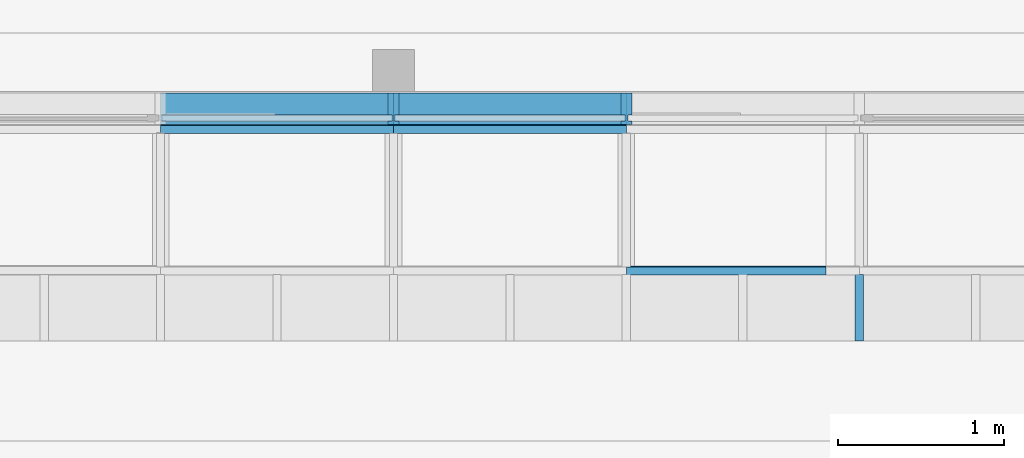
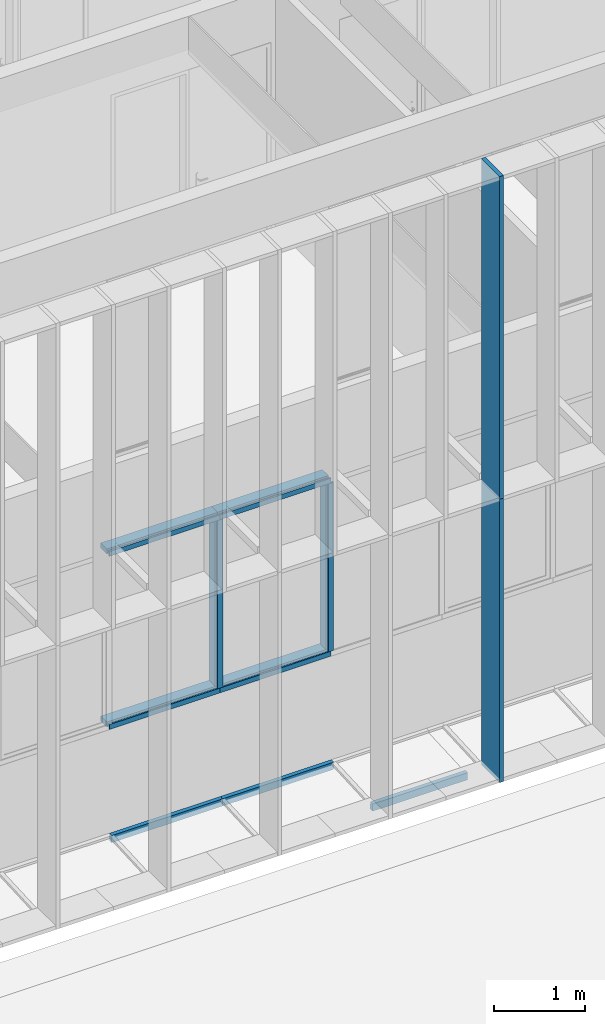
# One storey, part 6 of 106: 11 members, 3 elements without a shape of their own.
"""IFC2X3 building model written with IfcOpenShell, lengths in centimetres."""

from ifc_helpers import new_model, entity, si_unit, converted_unit, derived_unit, direction, frame, origin, origin_2d_with_axis, place, context, subcontext, project, spatial, polyline, rectangle, outline, extrude, source, transform, mapped, material, type_object, type_shapes, element, aggregate, save


model = new_model("IFC2X3")

# Units and contexts
model_context = context("Model", 3, precision=0.001, world=origin(), true_north=direction((6.12303176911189e-17, 1.0)))
body_context = subcontext(model_context, "Body", "Model", "MODEL_VIEW")
ifc_project = project(units=[si_unit("LENGTHUNIT", "METRE", prefix="CENTI"), si_unit("AREAUNIT", "SQUARE_METRE"), si_unit("VOLUMEUNIT", "CUBIC_METRE"), converted_unit("PLANEANGLEUNIT", "DEGREE", entity("IfcRatioMeasure", 0.0174532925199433), si_unit("PLANEANGLEUNIT", "RADIAN"), dimensions=[0, 0, 0, 0, 0, 0, 0]), si_unit("MASSUNIT", "GRAM", prefix="KILO"), derived_unit("MASSDENSITYUNIT", [(si_unit("MASSUNIT", "GRAM", prefix="KILO"), 1), (si_unit("LENGTHUNIT", "METRE"), -3)]), si_unit("TIMEUNIT", "SECOND"), si_unit("FREQUENCYUNIT", "HERTZ"), si_unit("THERMODYNAMICTEMPERATUREUNIT", "DEGREE_CELSIUS"), derived_unit("THERMALTRANSMITTANCEUNIT", [(si_unit("MASSUNIT", "GRAM", prefix="KILO"), 1), (si_unit("THERMODYNAMICTEMPERATUREUNIT", "KELVIN"), -1), (si_unit("TIMEUNIT", "SECOND"), -3)]), derived_unit("VOLUMETRICFLOWRATEUNIT", [(si_unit("LENGTHUNIT", "METRE"), 3), (si_unit("TIMEUNIT", "SECOND"), -1)]), si_unit("ELECTRICCURRENTUNIT", "AMPERE"), si_unit("ELECTRICVOLTAGEUNIT", "VOLT"), si_unit("POWERUNIT", "WATT"), si_unit("FORCEUNIT", "NEWTON", prefix="KILO"), si_unit("ILLUMINANCEUNIT", "LUX"), si_unit("LUMINOUSFLUXUNIT", "LUMEN"), si_unit("LUMINOUSINTENSITYUNIT", "CANDELA"), derived_unit("USERDEFINED", [(si_unit("MASSUNIT", "GRAM", prefix="KILO"), -1), (si_unit("LENGTHUNIT", "METRE"), -2), (si_unit("TIMEUNIT", "SECOND"), 3), (si_unit("LUMINOUSFLUXUNIT", "LUMEN"), 1)]), derived_unit("LINEARVELOCITYUNIT", [(si_unit("LENGTHUNIT", "METRE"), 1), (si_unit("TIMEUNIT", "SECOND"), -1)]), si_unit("PRESSUREUNIT", "PASCAL"), derived_unit("USERDEFINED", [(si_unit("LENGTHUNIT", "METRE"), -2), (si_unit("MASSUNIT", "GRAM", prefix="KILO"), 1), (si_unit("TIMEUNIT", "SECOND"), -2)])], contexts=[model_context])

# Site, building, storey
site_placement = place(None, frame((-2781.94577612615, 7442.24238424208, 0.0)))
site = spatial("IfcSite", under=ifc_project, at=site_placement, Name="Default", CompositionType="ELEMENT")
building_placement = place(site_placement, origin())
building = spatial("IfcBuilding", under=site, at=building_placement, CompositionType="ELEMENT")
storey_placement = place(building_placement, frame((0.0, 0.0, 422.0)))
storey = spatial("IfcBuildingStorey", under=building, at=storey_placement, Name="Toiture - Cuisine", CompositionType="ELEMENT", Elevation=421.999999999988)

# Roof, members
curtain_wall_type_1 = type_object("IfcCurtainWallType", Name="Vitres inclinées:Toit en verre 1 m x 2 m", PredefinedType="NOTDEFINED")
roof_placement = place(building_placement, origin())
roof = element("IfcRoof", 1, at=roof_placement, inside=storey, type_object=curtain_wall_type_1, Name="Vitres inclinées:Toit en verre 1 m x 2 m", ObjectType="Vitres inclinées:Toit en verre 1 m x 2 m", ShapeType="NOTDEFINED")
ifc_material_1 = material(Name="Plastique, blanc opaque")
member_type_1 = type_object("IfcMemberType", Name="100 x 50mm", PredefinedType="MEMBER")
shared_shape_1 = source(origin(), body_context, "Body", "SweptSolid", [
    extrude(rectangle(XDim=10.0, YDim=5.0, at=origin_2d_with_axis()), frame((-2.5, 0.0, -140.0), z_axis=(0.0, 0.0, 1.0), x_axis=(0.0, -1.0, 0.0)), (0.0, 0.0, 1.0), 140.0),
])
type_shapes(member_type_1, [shared_shape_1])
member_1_placement = place(building_placement, frame((-6869.49987763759, -1950.34071342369, 362.709847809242), z_axis=(-1.0, 0.0, 0.0), x_axis=(0.0, 0.998629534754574, 0.0523359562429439)))
member_1 = element("IfcMember", 2, at=member_1_placement, type_object=member_type_1, material=ifc_material_1, Name="Meneau rectangulaire:100 x 50mm", ObjectType="Meneau rectangulaire:100 x 50mm", context=body_context, shape_type="MappedRepresentation", body=[
    mapped(shared_shape_1, transform((0.0, 0.0, 0.0), scale=1.0)),
])
member_2_placement = place(building_placement, frame((-7009.49987763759, -1950.34071342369, 362.709847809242), z_axis=(-1.0, 0.0, 0.0), x_axis=(0.0, 0.998629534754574, 0.0523359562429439)))
member_2 = element("IfcMember", 3, at=member_2_placement, type_object=member_type_1, material=ifc_material_1, Name="Meneau rectangulaire:100 x 50mm", ObjectType="Meneau rectangulaire:100 x 50mm", context=body_context, shape_type="MappedRepresentation", body=[
    mapped(shared_shape_1, transform((0.0, 0.0, 0.0), scale=1.0)),
])
member_type_2 = type_object("IfcMemberType", Name="100 x 50mm", PredefinedType="MEMBER")
shared_shape_2 = source(origin(), body_context, "Body", "SweptSolid", [
    extrude(rectangle(XDim=10.0, YDim=5.0, at=origin_2d_with_axis()), frame((-2.5, 0.0, -120.000164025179), z_axis=(0.0, 0.0, 1.0), x_axis=(0.0, -1.0, 0.0)), (0.0, 0.0, 1.0), 120.000164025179),
])
type_shapes(member_type_2, [shared_shape_2])
member_3_placement = place(building_placement, frame((-6609.49987763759, -2040.34071342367, 357.99314767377), z_axis=(1.0, 0.0, 0.0), x_axis=(0.0, -0.998629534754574, -0.0523359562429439)))
member_3 = element("IfcMember", 4, at=member_3_placement, type_object=member_type_2, material=ifc_material_1, Name="Meneau rectangulaire:100 x 50mm", ObjectType="Meneau rectangulaire:100 x 50mm", context=body_context, shape_type="MappedRepresentation", body=[
    mapped(shared_shape_2, transform((0.0, 0.0, 0.0), scale=1.0)),
])
aggregate(roof, [member_1, member_3, member_2])

# Curtain wall, members
curtain_wall_type_2 = type_object("IfcCurtainWallType", Name="Mur-rideau:07 - mur rideau trame 140 cm", PredefinedType="NOTDEFINED")
curtain_wall_1_placement = place(building_placement, origin())
curtain_wall_1 = element("IfcCurtainWall", 5, at=curtain_wall_1_placement, inside=storey, type_object=curtain_wall_type_2, Name="Mur-rideau:07 - mur rideau trame 140 cm", ObjectType="Mur-rideau:07 - mur rideau trame 140 cm")
ifc_material_2 = material(Name="Aluminium")
member_type_3 = type_object("IfcMemberType", Name="150 x 25mm Détails", PredefinedType="MEMBER")
shared_shape_3 = source(origin(), body_context, "Body", "SweptSolid", [
    extrude(outline(polyline([(-5.6666666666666, -3.24999999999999), (-3.66666666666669, -3.24999999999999), (-3.66666666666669, -0.868749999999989), (-0.166666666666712, -0.868749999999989), (-0.166666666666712, -3.25000000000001), (13.3333333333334, -3.25000000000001), (13.3333333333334, 3.24999999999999), (-0.16666666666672, 3.24999999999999), (-0.16666666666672, 0.868749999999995), (-3.66666666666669, 0.868749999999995), (-3.66666666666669, 3.25), (-5.6666666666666, 3.25), (-5.6666666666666, -3.24999999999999)])), frame((-3.24999999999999, -1.96666666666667, -140.0), z_axis=(0.0, 0.0, 1.0), x_axis=(0.0, -1.0, 0.0)), (0.0, 0.0, 1.0), 140.000000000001),
])
type_shapes(member_type_3, [shared_shape_3])
member_4_placement = place(building_placement, frame((-6869.49987763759, -1946.27903364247, 743.0), z_axis=(1.0, 0.0, 0.0), x_axis=(0.0, 0.0, 1.0)))
member_4 = element("IfcMember", 6, at=member_4_placement, type_object=member_type_3, material=ifc_material_2, Name="Meneau rectangulaire:150 x 25mm Détails", ObjectType="Meneau rectangulaire:150 x 25mm Détails", context=body_context, shape_type="MappedRepresentation", body=[
    mapped(shared_shape_3, transform((0.0, 0.0, 0.0), scale=1.0)),
])
member_5_placement = place(building_placement, frame((-6729.49987763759, -1946.27903364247, 743.0), z_axis=(1.0, 0.0, 0.0), x_axis=(0.0, 0.0, 1.0)))
member_5 = element("IfcMember", 7, at=member_5_placement, type_object=member_type_3, material=ifc_material_2, Name="Meneau rectangulaire:150 x 25mm Détails", ObjectType="Meneau rectangulaire:150 x 25mm Détails", context=body_context, shape_type="MappedRepresentation", body=[
    mapped(shared_shape_3, transform((0.0, 0.0, 0.0), scale=1.0)),
])
member_type_4 = type_object("IfcMemberType", Name="150 x 25mm Détails", PredefinedType="MEMBER")
shared_shape_4 = source(origin(), body_context, "Body", "SweptSolid", [
    extrude(outline(polyline([(-5.66666666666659, -3.25), (-3.66666666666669, -3.25), (-3.66666666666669, -0.868749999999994), (-0.166666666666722, -0.868749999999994), (-0.166666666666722, -3.25000000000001), (13.3333333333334, -3.24999999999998), (13.3333333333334, 3.25000000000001), (-0.166666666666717, 3.25000000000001), (-0.166666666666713, 0.868749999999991), (-3.66666666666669, 0.868749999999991), (-3.66666666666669, 3.24999999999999), (-5.66666666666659, 3.24999999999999), (-5.66666666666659, -3.25)])), frame((-3.24999999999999, -1.96666666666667, -140.0), z_axis=(0.0, 0.0, 1.0), x_axis=(0.0, -1.0, 0.0)), (0.0, 0.0, 1.0), 140.000000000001),
])
type_shapes(member_type_4, [shared_shape_4])
member_6_placement = place(building_placement, frame((-7009.49987763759, -1946.27903364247, 505.5), z_axis=(-1.0, 0.0, 0.0), x_axis=(0.0, 0.0, -1.0)))
member_6 = element("IfcMember", 8, at=member_6_placement, type_object=member_type_4, material=ifc_material_2, Name="Meneau rectangulaire:150 x 25mm Détails", ObjectType="Meneau rectangulaire:150 x 25mm Détails", context=body_context, shape_type="MappedRepresentation", body=[
    mapped(shared_shape_4, transform((0.0, 0.0, 0.0), scale=1.0)),
])
member_7_placement = place(building_placement, frame((-6869.49987763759, -1946.27903364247, 505.5), z_axis=(-1.0, 0.0, 0.0), x_axis=(0.0, 0.0, -1.0)))
member_7 = element("IfcMember", 9, at=member_7_placement, type_object=member_type_4, material=ifc_material_2, Name="Meneau rectangulaire:150 x 25mm Détails", ObjectType="Meneau rectangulaire:150 x 25mm Détails", context=body_context, shape_type="MappedRepresentation", body=[
    mapped(shared_shape_4, transform((0.0, 0.0, 0.0), scale=1.0)),
])
member_type_5 = type_object("IfcMemberType", Name="150 x 25mm Détails", PredefinedType="MEMBER")
shared_shape_5 = source(origin(), body_context, "Body", "SweptSolid", [
    extrude(outline(polyline([(-5.6666666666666, -3.24999999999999), (-3.66666666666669, -3.24999999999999), (-3.66666666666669, -0.86874999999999), (-0.166666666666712, -0.86874999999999), (-0.166666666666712, -3.25000000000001), (13.3333333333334, -3.25000000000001), (13.3333333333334, 3.24999999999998), (-0.16666666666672, 3.24999999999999), (-0.16666666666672, 0.868749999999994), (-3.66666666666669, 0.868749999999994), (-3.66666666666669, 3.25), (-5.6666666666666, 3.25), (-5.6666666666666, -3.24999999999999)])), frame((0.0, -1.96666666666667, -224.5), z_axis=(0.0, 0.0, 1.0), x_axis=(0.0, -1.0, 0.0)), (0.0, 0.0, 1.0), 224.5),
])
type_shapes(member_type_5, [shared_shape_5])
member_8_placement = place(building_placement, frame((-6869.49987763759, -1946.27903364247, 512.0), z_axis=(0.0, 0.0, -1.0), x_axis=(1.0, 0.0, 0.0)))
member_8 = element("IfcMember", 10, at=member_8_placement, type_object=member_type_5, material=ifc_material_2, Name="Meneau rectangulaire:150 x 25mm Détails", ObjectType="Meneau rectangulaire:150 x 25mm Détails", context=body_context, shape_type="MappedRepresentation", body=[
    mapped(shared_shape_5, transform((0.0, 0.0, 0.0), scale=1.0)),
])
member_9_placement = place(building_placement, frame((-6729.49987763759, -1946.27903364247, 512.0), z_axis=(0.0, 0.0, -1.0), x_axis=(1.0, 0.0, 0.0)))
member_9 = element("IfcMember", 11, at=member_9_placement, type_object=member_type_5, material=ifc_material_2, Name="Meneau rectangulaire:150 x 25mm Détails", ObjectType="Meneau rectangulaire:150 x 25mm Détails", context=body_context, shape_type="MappedRepresentation", body=[
    mapped(shared_shape_5, transform((0.0, 0.0, 0.0), scale=1.0)),
])
aggregate(curtain_wall_1, [member_4, member_5, member_6, member_7, member_8, member_9])

curtain_wall_type_3 = type_object("IfcCurtainWallType", Name="Mur-rideau:Epines - 400x30mm", PredefinedType="NOTDEFINED")
curtain_wall_2_placement = place(building_placement, origin())
curtain_wall_2 = element("IfcCurtainWall", 12, at=curtain_wall_2_placement, inside=storey, type_object=curtain_wall_type_3, Name="Mur-rideau:Epines - 400x30mm", ObjectType="Mur-rideau:Epines - 400x30mm")
member_type_6 = type_object("IfcMemberType", Name="Epine sud (400x50 mm)", PredefinedType="MEMBER")
shared_shape_6 = source(origin(), body_context, "Body", "SweptSolid", [
    extrude(rectangle(XDim=40.0, YDim=5.0, at=origin_2d_with_axis()), frame((0.0, 0.0, -377.950708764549), z_axis=(0.0, 0.0, 1.0), x_axis=(0.0, -1.0, 0.0)), (0.0, 0.0, 1.0), 377.950708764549),
])
type_shapes(member_type_6, [shared_shape_6])
member_10_placement = place(building_placement, frame((-6589.49987763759, -2060.07903364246, 367.449291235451), z_axis=(0.0, 0.0, -1.0), x_axis=(1.0, 0.0, 0.0)))
member_10 = element("IfcMember", 13, at=member_10_placement, type_object=member_type_6, material=ifc_material_2, Name="Meneau rectangulaire:Epine sud (400x50 mm)", ObjectType="Meneau rectangulaire:Epine sud (400x50 mm)", context=body_context, shape_type="MappedRepresentation", body=[
    mapped(shared_shape_6, transform((0.0, 0.0, 0.0), scale=1.0)),
])
member_type_7 = type_object("IfcMemberType", Name="Epine sud (400x50 mm)", PredefinedType="MEMBER")
shared_shape_7 = source(origin(), body_context, "Body", "SweptSolid", [
    extrude(rectangle(XDim=40.0, YDim=5.0, at=origin_2d_with_axis()), frame((0.0, 0.0, -430.600000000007), z_axis=(0.0, 0.0, 1.0), x_axis=(0.0, -1.0, 0.0)), (0.0, 0.0, 1.0), 430.600000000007),
])
type_shapes(member_type_7, [shared_shape_7])
member_11_placement = place(building_placement, frame((-6589.49987763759, -2060.07903364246, 745.4), z_axis=(0.0, 0.0, -1.0), x_axis=(1.0, 0.0, 0.0)))
member_11 = element("IfcMember", 14, at=member_11_placement, type_object=member_type_7, material=ifc_material_2, Name="Meneau rectangulaire:Epine sud (400x50 mm)", ObjectType="Meneau rectangulaire:Epine sud (400x50 mm)", context=body_context, shape_type="MappedRepresentation", body=[
    mapped(shared_shape_7, transform((0.0, 0.0, 0.0), scale=1.0)),
])
aggregate(curtain_wall_2, [member_11, member_10])

save(model, "model.ifc")
